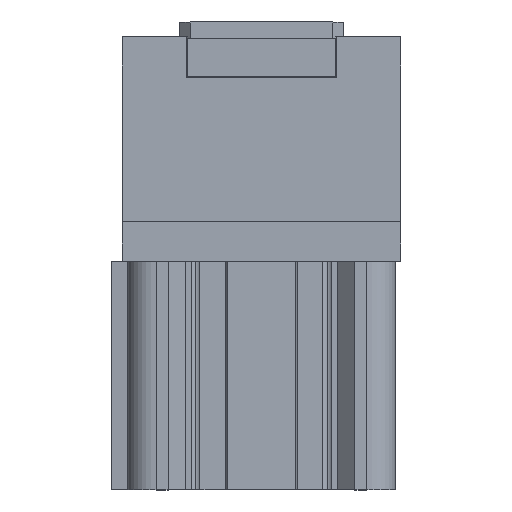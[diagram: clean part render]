
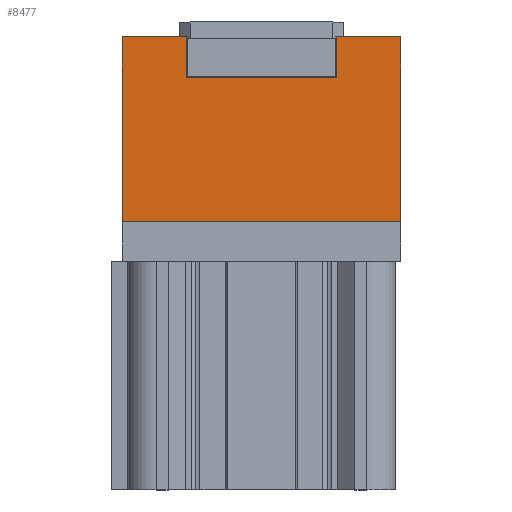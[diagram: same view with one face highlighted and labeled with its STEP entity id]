
A CAD part, top view. The second image highlights one B-rep face of the part: STEP entity #8477.
In plain terms, the highlighted planar face has unit normal (0, 0, 1) as drawn and (-1, 0, 0) by its records, which use the part's own axes.
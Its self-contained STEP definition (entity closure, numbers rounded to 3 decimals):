
#1977 = CARTESIAN_POINT ( 'NONE',  ( -95., 82., -51. ) ) ;
#2060 = CARTESIAN_POINT ( 'NONE',  ( -95., 82., -27.5 ) ) ;
#2073 = CARTESIAN_POINT ( 'NONE',  ( -95., 14.5, 51. ) ) ;
#2081 = CARTESIAN_POINT ( 'NONE',  ( -95., 14.5, -51. ) ) ;
#2082 = CARTESIAN_POINT ( 'NONE',  ( -95., 67., -27.5 ) ) ;
#2084 = CARTESIAN_POINT ( 'NONE',  ( -95., 82., 51. ) ) ;
#2085 = CARTESIAN_POINT ( 'NONE',  ( -95., 67., 27.5 ) ) ;
#2086 = CARTESIAN_POINT ( 'NONE',  ( -95., 82., 27.5 ) ) ;
#2633 = ORIENTED_EDGE ( 'NONE', *, *, #5695, .F. ) ;
#2634 = ORIENTED_EDGE ( 'NONE', *, *, #5701, .T. ) ;
#2635 = ORIENTED_EDGE ( 'NONE', *, *, #5700, .F. ) ;
#2636 = ORIENTED_EDGE ( 'NONE', *, *, #5699, .F. ) ;
#2637 = ORIENTED_EDGE ( 'NONE', *, *, #5698, .F. ) ;
#2638 = ORIENTED_EDGE ( 'NONE', *, *, #5697, .F. ) ;
#2639 = ORIENTED_EDGE ( 'NONE', *, *, #5696, .T. ) ;
#2640 = ORIENTED_EDGE ( 'NONE', *, *, #5681, .T. ) ;
#3070 = EDGE_LOOP ( 'NONE', ( #2640, #2639, #2638, #2637, #2636, #2635, #2634, #2633 ) ) ;
#4579 = VERTEX_POINT ( 'NONE', #1977 ) ;
#4662 = VERTEX_POINT ( 'NONE', #2060 ) ;
#4675 = VERTEX_POINT ( 'NONE', #2073 ) ;
#4683 = VERTEX_POINT ( 'NONE', #2081 ) ;
#4684 = VERTEX_POINT ( 'NONE', #2082 ) ;
#4686 = VERTEX_POINT ( 'NONE', #2084 ) ;
#4687 = VERTEX_POINT ( 'NONE', #2085 ) ;
#4688 = VERTEX_POINT ( 'NONE', #2086 ) ;
#5681 = EDGE_CURVE ( 'NONE', #4579, #4683, #5714, .T. ) ;
#5695 = EDGE_CURVE ( 'NONE', #4579, #4662, #5732, .T. ) ;
#5696 = EDGE_CURVE ( 'NONE', #4683, #4675, #5734, .T. ) ;
#5697 = EDGE_CURVE ( 'NONE', #4686, #4675, #5736, .T. ) ;
#5698 = EDGE_CURVE ( 'NONE', #4688, #4686, #5716, .T. ) ;
#5699 = EDGE_CURVE ( 'NONE', #4687, #4688, #5740, .T. ) ;
#5700 = EDGE_CURVE ( 'NONE', #4684, #4687, #5742, .T. ) ;
#5701 = EDGE_CURVE ( 'NONE', #4684, #4662, #5744, .T. ) ;
#5714 = LINE ( 'NONE', #6360, #5715 ) ;
#5715 = VECTOR ( 'NONE', #6361, 1000. ) ;
#5716 = LINE ( 'NONE', #6390, #5741 ) ;
#5732 = LINE ( 'NONE', #6396, #5735 ) ;
#5734 = LINE ( 'NONE', #6398, #5737 ) ;
#5735 = VECTOR ( 'NONE', #6397, 1000. ) ;
#5736 = LINE ( 'NONE', #6400, #5739 ) ;
#5737 = VECTOR ( 'NONE', #6399, 1000. ) ;
#5739 = VECTOR ( 'NONE', #6401, 1000. ) ;
#5740 = LINE ( 'NONE', #6403, #5743 ) ;
#5741 = VECTOR ( 'NONE', #6402, 1000. ) ;
#5742 = LINE ( 'NONE', #6405, #5745 ) ;
#5743 = VECTOR ( 'NONE', #6404, 1000. ) ;
#5744 = LINE ( 'NONE', #6407, #5747 ) ;
#5745 = VECTOR ( 'NONE', #6406, 1000. ) ;
#5747 = VECTOR ( 'NONE', #6408, 1000. ) ;
#6002 = FACE_OUTER_BOUND ( 'NONE', #3070, .T. ) ;
#6360 = CARTESIAN_POINT ( 'NONE',  ( -95., 82., -51. ) ) ;
#6361 = DIRECTION ( 'NONE',  ( 0., -1., 0. ) ) ;
#6390 = CARTESIAN_POINT ( 'NONE',  ( -95., 82., -51. ) ) ;
#6396 = CARTESIAN_POINT ( 'NONE',  ( -95., 82., -51. ) ) ;
#6397 = DIRECTION ( 'NONE',  ( 0., 0., 1. ) ) ;
#6398 = CARTESIAN_POINT ( 'NONE',  ( -95., 14.5, -51. ) ) ;
#6399 = DIRECTION ( 'NONE',  ( 0., 0., 1. ) ) ;
#6400 = CARTESIAN_POINT ( 'NONE',  ( -95., 82., 51. ) ) ;
#6401 = DIRECTION ( 'NONE',  ( 0., -1., 0. ) ) ;
#6402 = DIRECTION ( 'NONE',  ( 0., 0., 1. ) ) ;
#6403 = CARTESIAN_POINT ( 'NONE',  ( -95., 67., 27.5 ) ) ;
#6404 = DIRECTION ( 'NONE',  ( 0., 1., 0. ) ) ;
#6405 = CARTESIAN_POINT ( 'NONE',  ( -95., 67., -27.5 ) ) ;
#6406 = DIRECTION ( 'NONE',  ( 0., 0., 1. ) ) ;
#6407 = CARTESIAN_POINT ( 'NONE',  ( -95., 67., -27.5 ) ) ;
#6408 = DIRECTION ( 'NONE',  ( 0., 1., 0. ) ) ;
#6863 = AXIS2_PLACEMENT_3D ( 'NONE', #7109, #7114, #7115 ) ;
#7109 = CARTESIAN_POINT ( 'NONE',  ( -95., 82., -51. ) ) ;
#7111 = PLANE ( 'NONE',  #6863 ) ;
#7114 = DIRECTION ( 'NONE',  ( 1., 0., 0. ) ) ;
#7115 = DIRECTION ( 'NONE',  ( 0., 0., -1. ) ) ;
#8477 = ADVANCED_FACE ( 'NONE', ( #6002 ), #7111, .F. ) ;
